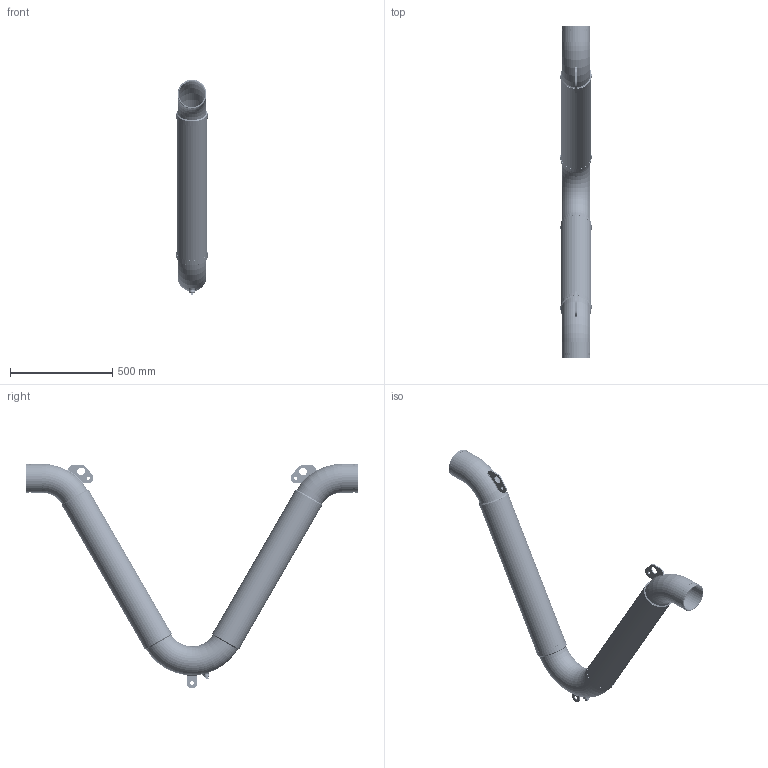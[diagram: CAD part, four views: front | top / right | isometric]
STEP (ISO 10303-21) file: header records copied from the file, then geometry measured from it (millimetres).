
FILE_DESCRIPTION((''),'2;1');
FILE_NAME('\\Mleuckt7400\cad-proe_solids2\WEBSITE FILES 05.22.13\STEP\VGWN\VGWN-5.stp','2013-07-23T10:21:08',('rramoutar'),(''),'Autodesk Inventor 2012','Autodesk Inventor 2012','');
FILE_SCHEMA(('AUTOMOTIVE_DESIGN { 1 0 10303 214 1 1 1 1 }'));
Length unit declared in the file: inch
Products named in the file (12): A-30591-3 VGN 5 INCH.iam (LevelofDetail1); A-30591-3 VGN 5 INCH.iam (LevelofDetail1)_Welds; A-30591-3 ELBOW 120 DEG FOR 5 INCH VGN; A-30713 A36 STEEL PLUG 0.5 inch; A-30713 A36 STEEL COUPLING 0.5 inch; A-28694-2 SUPORT CLIP VGN,VFL 5INCH; A-29799-1 CLIP VGN,VFL 5 TO 12 INCH; A-30591-3 VGN 5 inch BRAID; A-29781-7 VGN 5.0 inch STAINLESS STEEL HOSE; A-29781-7 5.0 inch braid collar; A-30591-3 ELBOW 60 DEG FOR 5 INCH VGN; A-30591-3 VGN 5.0 INCH NIPPLE
Assembly tree (19 placements, depth 2):
  A-30591-3 VGN 5 INCH.iam (LevelofDetail1)
    A-30591-3 VGN 5 INCH.iam (LevelofDetail1)_Welds
    A-30591-3 ELBOW 120 DEG FOR 5 INCH VGN
    A-30713 A36 STEEL PLUG 0.5 inch
    A-30713 A36 STEEL COUPLING 0.5 inch
    A-28694-2 SUPORT CLIP VGN,VFL 5INCH
    A-29799-1 CLIP VGN,VFL 5 TO 12 INCH  x2
    A-30591-3 VGN 5 inch BRAID  x2
    A-29781-7 VGN 5.0 inch STAINLESS STEEL HOSE  x2
    A-29781-7 5.0 inch braid collar  x4
    A-30591-3 ELBOW 60 DEG FOR 5 INCH VGN  x2
    A-30591-3 VGN 5.0 INCH NIPPLE  x2
Bounding box: 152.76 x 1625.6 x 1099.35 mm (x, y, z)
Volume: 3959867.8 mm3; surface area: 6341671.9 mm2
Topology: 26 solids, 26 shells, 2471 faces, 4485 edges, 3145 vertices
Faces by surface type: torus 1254, plane 1158, cylinder 40, bspline 15, cone 4
Full cylindrical faces by diameter (mm): 15.875 x2, 18.256 x1, 19.05 x1, 21.336 x2, 28.575 x3, 38.1 x2, 128.194 x2, 137.033 x2, 141.3 x4, 150.114 x6, 151.13 x2, 152.495 x4
Entity records: 32965 total; most frequent: CARTESIAN_POINT 10697, DIRECTION 5079, ORIENTED_EDGE 2700, AXIS2_PLACEMENT_3D 2517, EDGE_LOOP 2488, EDGE_CURVE 1350, VERTEX_POINT 1304, FACE_OUTER_BOUND 1268
